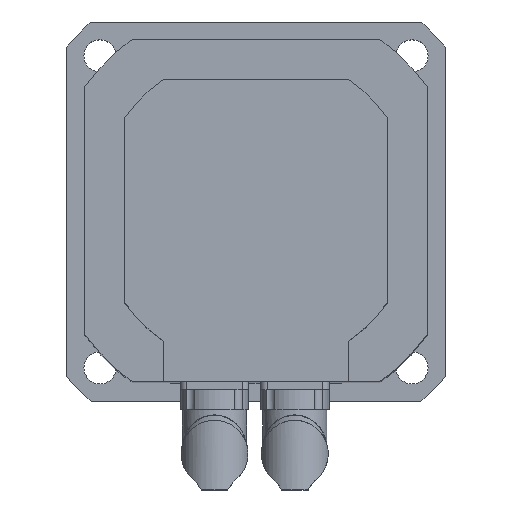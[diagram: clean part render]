
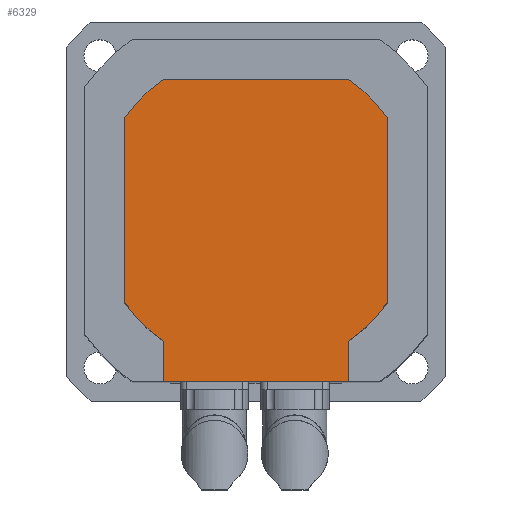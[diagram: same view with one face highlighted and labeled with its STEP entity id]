
A CAD part, top view. The second image highlights one B-rep face of the part: STEP entity #6329.
In plain terms, the highlighted planar face has unit normal (0, 0, 1).
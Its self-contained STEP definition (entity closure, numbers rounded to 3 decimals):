
#5733=CARTESIAN_POINT('',(-49.,-34.627,48.));
#5734=VERTEX_POINT('',#5733);
#5741=CARTESIAN_POINT('',(-49.,34.627,48.));
#5742=VERTEX_POINT('',#5741);
#5743=CARTESIAN_POINT('',(-49.,34.627,48.));
#5744=DIRECTION('',(0.0,-1.0,0.0));
#5745=VECTOR('',#5744,69.253);
#5746=LINE('',#5743,#5745);
#5747=EDGE_CURVE('',#5742,#5734,#5746,.T.);
#5791=CARTESIAN_POINT('',(49.0,34.627,48.));
#5792=VERTEX_POINT('',#5791);
#5799=CARTESIAN_POINT('',(49.0,-34.627,48.));
#5800=VERTEX_POINT('',#5799);
#5801=CARTESIAN_POINT('',(49.0,-34.627,48.));
#5802=DIRECTION('',(0.0,1.0,0.0));
#5803=VECTOR('',#5802,69.253);
#5804=LINE('',#5801,#5803);
#5805=EDGE_CURVE('',#5800,#5792,#5804,.T.);
#6147=CARTESIAN_POINT('',(-34.627,49.0,48.));
#6148=VERTEX_POINT('',#6147);
#6155=CARTESIAN_POINT('',(34.627,49.0,48.));
#6156=VERTEX_POINT('',#6155);
#6157=CARTESIAN_POINT('',(34.627,49.0,48.));
#6158=DIRECTION('',(-1.0,0.0,0.0));
#6159=VECTOR('',#6158,69.253);
#6160=LINE('',#6157,#6159);
#6161=EDGE_CURVE('',#6156,#6148,#6160,.T.);
#6179=CARTESIAN_POINT('',(34.627,-49.0,48.));
#6180=VERTEX_POINT('',#6179);
#6181=CARTESIAN_POINT('',(0.0,0.0,48.));
#6182=DIRECTION('',(0.0,0.0,-1.0));
#6183=DIRECTION('',(-1.0,0.0,0.0));
#6184=AXIS2_PLACEMENT_3D('',#6181,#6182,#6183);
#6185=CIRCLE('',#6184,60.0);
#6186=EDGE_CURVE('',#5800,#6180,#6185,.T.);
#6204=CARTESIAN_POINT('',(0.0,0.0,48.));
#6205=DIRECTION('',(0.0,0.0,-1.0));
#6206=DIRECTION('',(-1.0,0.0,0.0));
#6207=AXIS2_PLACEMENT_3D('',#6204,#6205,#6206);
#6208=CIRCLE('',#6207,60.0);
#6209=EDGE_CURVE('',#6156,#5792,#6208,.T.);
#6222=CARTESIAN_POINT('',(0.0,0.0,48.));
#6223=DIRECTION('',(0.0,0.0,-1.0));
#6224=DIRECTION('',(-1.0,0.0,0.0));
#6225=AXIS2_PLACEMENT_3D('',#6222,#6223,#6224);
#6226=CIRCLE('',#6225,60.0);
#6227=EDGE_CURVE('',#5742,#6148,#6226,.T.);
#6241=CARTESIAN_POINT('',(-34.627,-49.0,48.));
#6242=VERTEX_POINT('',#6241);
#6249=CARTESIAN_POINT('',(0.0,0.0,48.));
#6250=DIRECTION('',(0.0,0.0,-1.0));
#6251=DIRECTION('',(-1.0,0.0,0.0));
#6252=AXIS2_PLACEMENT_3D('',#6249,#6250,#6251);
#6253=CIRCLE('',#6252,60.0);
#6254=EDGE_CURVE('',#6242,#5734,#6253,.T.);
#6266=CARTESIAN_POINT('',(34.627,-64.0,48.));
#6267=VERTEX_POINT('',#6266);
#6268=CARTESIAN_POINT('',(34.627,-49.0,48.));
#6269=DIRECTION('',(0.0,-1.0,0.0));
#6270=VECTOR('',#6269,15.0);
#6271=LINE('',#6268,#6270);
#6272=EDGE_CURVE('',#6180,#6267,#6271,.T.);
#6288=CARTESIAN_POINT('',(-34.627,-64.0,48.));
#6289=VERTEX_POINT('',#6288);
#6296=CARTESIAN_POINT('',(-34.627,-49.0,48.));
#6297=DIRECTION('',(0.0,-1.0,0.0));
#6298=VECTOR('',#6297,15.0);
#6299=LINE('',#6296,#6298);
#6300=EDGE_CURVE('',#6242,#6289,#6299,.T.);
#6307=CARTESIAN_POINT('',(49.,-64.,48.));
#6308=DIRECTION('',(0.0,0.0,-1.0));
#6309=DIRECTION('',(-1.0,0.0,0.0));
#6310=AXIS2_PLACEMENT_3D('',#6307,#6308,#6309);
#6311=PLANE('',#6310);
#6312=ORIENTED_EDGE('',*,*,#5747,.T.);
#6313=ORIENTED_EDGE('',*,*,#6254,.F.);
#6314=ORIENTED_EDGE('',*,*,#6300,.T.);
#6315=CARTESIAN_POINT('',(34.627,-64.0,48.));
#6316=DIRECTION('',(-1.0,0.0,0.0));
#6317=VECTOR('',#6316,69.253);
#6318=LINE('',#6315,#6317);
#6319=EDGE_CURVE('',#6267,#6289,#6318,.T.);
#6320=ORIENTED_EDGE('',*,*,#6319,.F.);
#6321=ORIENTED_EDGE('',*,*,#6272,.F.);
#6322=ORIENTED_EDGE('',*,*,#6186,.F.);
#6323=ORIENTED_EDGE('',*,*,#5805,.T.);
#6324=ORIENTED_EDGE('',*,*,#6209,.F.);
#6325=ORIENTED_EDGE('',*,*,#6161,.T.);
#6326=ORIENTED_EDGE('',*,*,#6227,.F.);
#6327=EDGE_LOOP('',(#6312,#6313,#6314,#6320,#6321,#6322,#6323,#6324,#6325,#6326));
#6328=FACE_OUTER_BOUND('',#6327,.T.);
#6329=ADVANCED_FACE('',(#6328),#6311,.F.);
